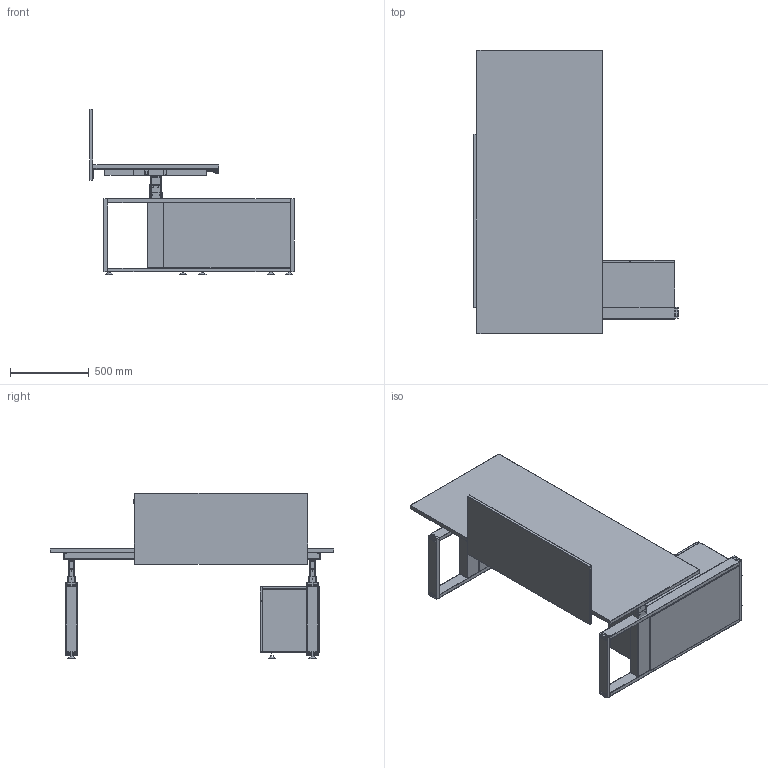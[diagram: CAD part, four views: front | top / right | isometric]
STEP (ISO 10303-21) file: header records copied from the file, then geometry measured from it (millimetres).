
FILE_DESCRIPTION ((), '1');
FILE_NAME ('C:\D\DESING\TABLE DESK PROJECT\MODESK WEB\3D MODELY KE STAZENI\EXECUTIVE\MODESK_EXECUTIVE_1800 + KONTEJNER L.stp', '2019-08-02T13:44:05', ('Unknown'), ('Unknown'), 'HarmonyWare STEP v1.4.3', 'HarmonyWare Translators', '');
FILE_SCHEMA (('CONFIG_CONTROL_DESIGN'));
Length unit declared in the file: millimetre
Products named in the file (165): MODESK_EXECUTIVE_1800 + KONTEJNER L
Bounding box: 1300 x 1800 x 1047.05 mm (x, y, z)
Volume: 69038185.6 mm3; surface area: 15096737.6 mm2
Topology: 87 solids, 165 shells, 7060 faces, 18600 edges, 11475 vertices
Faces by surface type: bspline 7060
Entity records: 337814 total; most frequent: CARTESIAN_POINT 220591, ORIENTED_EDGE 35070, EDGE_CURVE 18123, VERTEX_POINT 11486, B_SPLINE_CURVE_WITH_KNOTS 10324, EDGE_LOOP 7542, FACE_OUTER_BOUND 7060, ADVANCED_FACE 7060
